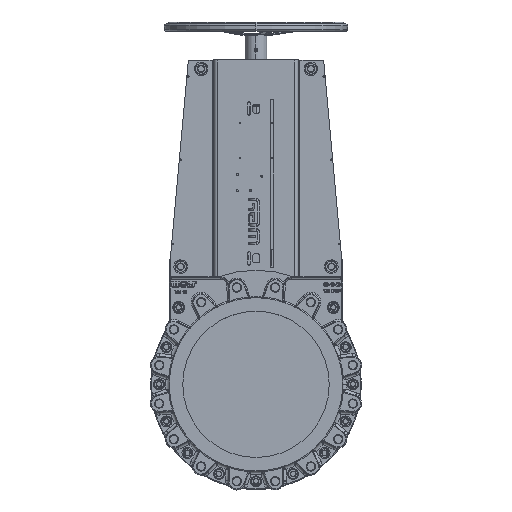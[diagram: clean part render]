
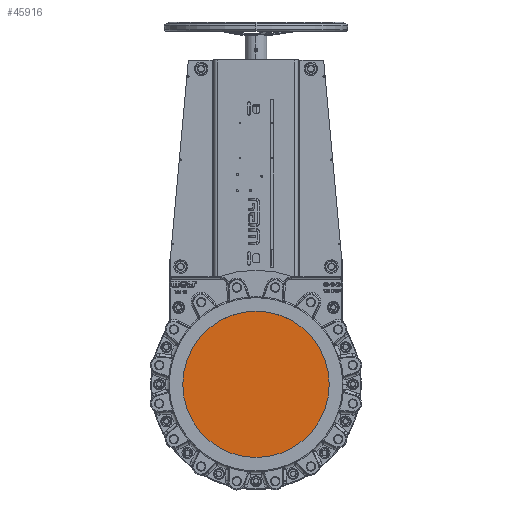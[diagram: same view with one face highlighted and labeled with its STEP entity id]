
A CAD part, top view. The second image highlights one B-rep face of the part: STEP entity #45916.
In plain terms, the highlighted planar face has unit normal (0, 0, 1).
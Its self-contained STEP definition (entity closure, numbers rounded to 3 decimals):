
#19606 = ORIENTED_EDGE ( 'NONE', *, *, #114704, .T. ) ;
#25419 = CIRCLE ( 'NONE', #67738, 200. ) ;
#32502 = ORIENTED_EDGE ( 'NONE', *, *, #141986, .T. ) ;
#33792 = PLANE ( 'NONE',  #124772 ) ;
#45916 = ADVANCED_FACE ( 'NONE', ( #141159 ), #33792, .T. ) ;
#49525 = DIRECTION ( 'NONE',  ( 0., 0., 1. ) ) ;
#58197 = CARTESIAN_POINT ( 'NONE',  ( 0., 0., -0.25 ) ) ;
#58494 = CARTESIAN_POINT ( 'NONE',  ( 0., 0., -0.25 ) ) ;
#67738 = AXIS2_PLACEMENT_3D ( 'NONE', #121133, #49525, #133150 ) ;
#69935 = AXIS2_PLACEMENT_3D ( 'NONE', #58197, #141747, #70286 ) ;
#70286 = DIRECTION ( 'NONE',  ( 1., 0., 0. ) ) ;
#70582 = DIRECTION ( 'NONE',  ( 1., 0., 0. ) ) ;
#76793 = VERTEX_POINT ( 'NONE', #106785 ) ;
#84113 = EDGE_LOOP ( 'NONE', ( #19606, #32502 ) ) ;
#106785 = CARTESIAN_POINT ( 'NONE',  ( 200., 0., -0.25 ) ) ;
#114704 = EDGE_CURVE ( 'NONE', #145522, #76793, #138352, .T. ) ;
#121133 = CARTESIAN_POINT ( 'NONE',  ( 0., 0., -0.25 ) ) ;
#124772 = AXIS2_PLACEMENT_3D ( 'NONE', #58494, #142030, #70582 ) ;
#133150 = DIRECTION ( 'NONE',  ( 1., 0., 0. ) ) ;
#138352 = CIRCLE ( 'NONE', #69935, 200. ) ;
#138508 = CARTESIAN_POINT ( 'NONE',  ( -200., 0., -0.25 ) ) ;
#141159 = FACE_OUTER_BOUND ( 'NONE', #84113, .T. ) ;
#141747 = DIRECTION ( 'NONE',  ( 0., 0., 1. ) ) ;
#141986 = EDGE_CURVE ( 'NONE', #76793, #145522, #25419, .T. ) ;
#142030 = DIRECTION ( 'NONE',  ( 0., 0., 1. ) ) ;
#145522 = VERTEX_POINT ( 'NONE', #138508 ) ;
